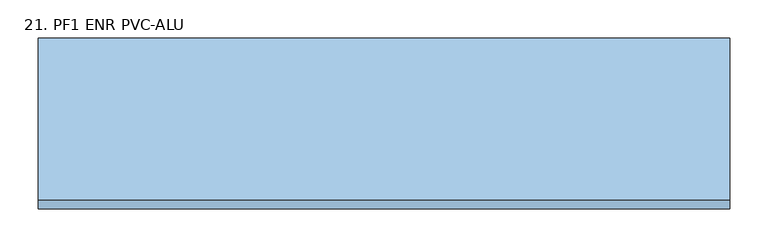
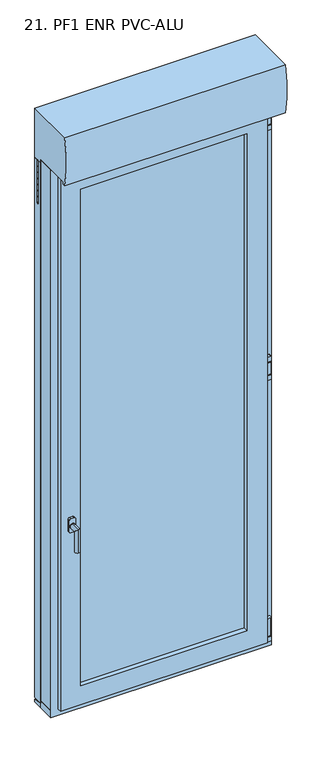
"""IFC4 building model written with IfcOpenShell, lengths in millimetres: window geometry, 21. PF1 ENR PVC-ALU : 130X236 (LXH) cm."""

from ifc_helpers import new_model, si_unit, point, frame, frame_2d, origin, place, context, project, spatial, polyline, circle_curve, ellipse_curve, trimmed, segment, composite_curve, outline, extrude, faceted_brep, source, transform, mapped, element, save
from ifc_brep_helpers import plane_surface, cylinder_surface, advanced_brep


def window_21_pf1_enr_pvc_alu_96f1f04a(model_context):
    return source(origin(), model_context, "Body", "SolidModel", [
        extrude(outline(composite_curve([segment(polyline([(1233.7215382, 426.56), (1233.7215382, 441.56), (1251.7279213, 441.56)]), True, "CONTINUOUS"), segment(trimmed(circle_curve(frame_2d((1251.7279213, 439.5663831)), 1.9936169), [point((1251.7279213, 441.56))], [point((1253.7215382, 439.5663831))], False, "CARTESIAN"), True, "CONTINUOUS"), segment(polyline([(1253.7215382, 439.5663831), (1253.7215382, 428.5276754)]), True, "CONTINUOUS"), segment(trimmed(circle_curve(frame_2d((1251.7538628, 428.5276754)), 1.9676754), [point((1253.7215382, 428.5276754))], [point((1251.7538628, 426.56))], False, "CARTESIAN"), True, "CONTINUOUS"), segment(polyline([(1251.7538628, 426.56), (1233.7215382, 426.56)]), True, "CONTINUOUS")], self_intersect=False)), frame((0.0, -115.0338923, 0.0), z_axis=(0.0, 1.0, 0.0), x_axis=(0.0, 0.0, 1.0)), (0.0, 0.0, 1.0), 15.0),
        extrude(outline(composite_curve([segment(trimmed(circle_curve(frame_2d((434.2805562, -107.5434807)), 5.0), [point((429.2805562, -107.5434807))], [point((439.2805562, -107.5434807))], False, "CARTESIAN"), True, "CONTINUOUS"), segment(trimmed(circle_curve(frame_2d((434.2805562, -107.5434807)), 5.0), [point((439.2805562, -107.5434807))], [point((429.2805562, -107.5434807))], False, "CARTESIAN"), True, "CONTINUOUS")], self_intersect=False)), frame((0.0, 0.0, 1173.7215382), z_axis=(0.0, 0.0, 1.0), x_axis=(1.0, 0.0, 0.0)), (0.0, 0.0, 1.0), 60.0),
        extrude(outline(composite_curve([segment(polyline([(421.56, -100.0434807), (439.6018237, -100.0434807)]), True, "CONTINUOUS"), segment(trimmed(circle_curve(frame_2d((439.6018237, -102.001657)), 1.9581763), [point((439.6018237, -100.0434807))], [point((441.56, -102.001657))], False, "CARTESIAN"), True, "CONTINUOUS"), segment(polyline([(441.56, -102.001657), (441.56, -113.0253033)]), True, "CONTINUOUS"), segment(trimmed(circle_curve(frame_2d((439.5418225, -113.0253033)), 2.0181775), [point((441.56, -113.0253033))], [point((439.5418225, -115.0434807))], False, "CARTESIAN"), True, "CONTINUOUS"), segment(polyline([(439.5418225, -115.0434807), (421.56, -115.0434807), (421.56, -100.0434807)]), True, "CONTINUOUS")], self_intersect=False)), frame((0.0, 0.0, 1179.448), z_axis=(0.0, 0.0, 1.0), x_axis=(1.0, 0.0, 0.0)), (0.0, 0.0, 1.0), 50.0),
        extrude(outline(composite_curve([segment(polyline([(1174.448, 441.7805562), (1174.448, 426.7805562), (1156.4572498, 426.7805562)]), True, "CONTINUOUS"), segment(trimmed(circle_curve(frame_2d((1156.4572498, 428.7898059)), 2.0092498), [point((1156.4572498, 426.7805562))], [point((1154.448, 428.7898059))], False, "CARTESIAN"), True, "CONTINUOUS"), segment(polyline([(1154.448, 428.7898059), (1154.448, 440.1303507)]), True, "CONTINUOUS"), segment(trimmed(circle_curve(frame_2d((1156.4216694, 439.8068867)), 2.0), [point((1154.448, 440.1303507))], [point((1156.0982054, 441.7805562))], False, "CARTESIAN"), True, "CONTINUOUS"), segment(polyline([(1156.0982054, 441.7805562), (1174.448, 441.7805562)]), True, "CONTINUOUS")], self_intersect=False)), frame((0.0, -115.0338923, 0.0), z_axis=(0.0, 1.0, 0.0), x_axis=(0.0, 0.0, 1.0)), (0.0, 0.0, 1.0), 15.0),
        extrude(outline(composite_curve([segment(polyline([(2310.8255382, 426.552), (2310.8255382, 441.552), (2328.8319213, 441.552)]), True, "CONTINUOUS"), segment(trimmed(circle_curve(frame_2d((2328.8319213, 439.5583831)), 1.9936169), [point((2328.8319213, 441.552))], [point((2330.8255382, 439.5583831))], False, "CARTESIAN"), True, "CONTINUOUS"), segment(polyline([(2330.8255382, 439.5583831), (2330.8255382, 428.5196754)]), True, "CONTINUOUS"), segment(trimmed(circle_curve(frame_2d((2328.8578628, 428.5196754)), 1.9676754), [point((2330.8255382, 428.5196754))], [point((2328.8578628, 426.552))], False, "CARTESIAN"), True, "CONTINUOUS"), segment(polyline([(2328.8578628, 426.552), (2310.8255382, 426.552)]), True, "CONTINUOUS")], self_intersect=False)), frame((0.0, -115.0338923, 0.0), z_axis=(0.0, 1.0, 0.0), x_axis=(0.0, 0.0, 1.0)), (0.0, 0.0, 1.0), 15.0),
        extrude(outline(composite_curve([segment(trimmed(circle_curve(frame_2d((434.2725562, -107.5434807)), 5.0), [point((429.2725562, -107.5434807))], [point((439.2725562, -107.5434807))], False, "CARTESIAN"), True, "CONTINUOUS"), segment(trimmed(circle_curve(frame_2d((434.2725562, -107.5434807)), 5.0), [point((439.2725562, -107.5434807))], [point((429.2725562, -107.5434807))], False, "CARTESIAN"), True, "CONTINUOUS")], self_intersect=False)), frame((0.0, 0.0, 2250.8255382), z_axis=(0.0, 0.0, 1.0), x_axis=(1.0, 0.0, 0.0)), (0.0, 0.0, 1.0), 60.0),
        extrude(outline(composite_curve([segment(polyline([(421.552, -100.0434807), (439.5938237, -100.0434807)]), True, "CONTINUOUS"), segment(trimmed(circle_curve(frame_2d((439.5938237, -102.001657)), 1.9581763), [point((439.5938237, -100.0434807))], [point((441.552, -102.001657))], False, "CARTESIAN"), True, "CONTINUOUS"), segment(polyline([(441.552, -102.001657), (441.552, -113.0253033)]), True, "CONTINUOUS"), segment(trimmed(circle_curve(frame_2d((439.5338225, -113.0253033)), 2.0181775), [point((441.552, -113.0253033))], [point((439.5338225, -115.0434807))], False, "CARTESIAN"), True, "CONTINUOUS"), segment(polyline([(439.5338225, -115.0434807), (421.552, -115.0434807), (421.552, -100.0434807)]), True, "CONTINUOUS")], self_intersect=False)), frame((0.0, 0.0, 2256.552), z_axis=(0.0, 0.0, 1.0), x_axis=(1.0, 0.0, 0.0)), (0.0, 0.0, 1.0), 50.0),
        extrude(outline(composite_curve([segment(polyline([(2251.552, 441.7725562), (2251.552, 426.7725562), (2233.5612498, 426.7725562)]), True, "CONTINUOUS"), segment(trimmed(circle_curve(frame_2d((2233.5612498, 428.7818059)), 2.0092498), [point((2233.5612498, 426.7725562))], [point((2231.552, 428.7818059))], False, "CARTESIAN"), True, "CONTINUOUS"), segment(polyline([(2231.552, 428.7818059), (2231.552, 440.1223507)]), True, "CONTINUOUS"), segment(trimmed(circle_curve(frame_2d((2233.5256694, 439.7988867)), 2.0), [point((2231.552, 440.1223507))], [point((2233.2022054, 441.7725562))], False, "CARTESIAN"), True, "CONTINUOUS"), segment(polyline([(2233.2022054, 441.7725562), (2251.552, 441.7725562)]), True, "CONTINUOUS")], self_intersect=False)), frame((0.0, -115.0338923, 0.0), z_axis=(0.0, 1.0, 0.0), x_axis=(0.0, 0.0, 1.0)), (0.0, 0.0, 1.0), 15.0),
        extrude(outline(composite_curve([segment(trimmed(circle_curve(frame_2d((434.2725562, -107.5434807)), 5.0), [point((429.2725562, -107.5434807))], [point((439.2725562, -107.5434807))], False, "CARTESIAN"), True, "CONTINUOUS"), segment(trimmed(circle_curve(frame_2d((434.2725562, -107.5434807)), 5.0), [point((439.2725562, -107.5434807))], [point((429.2725562, -107.5434807))], False, "CARTESIAN"), True, "CONTINUOUS")], self_intersect=False)), frame((0.0, 0.0, 48.2452297), z_axis=(0.0, 0.0, 1.0), x_axis=(1.0, 0.0, 0.0)), (0.0, 0.0, 1.0), 5.0),
        extrude(outline(composite_curve([segment(polyline([(48.2452297, 441.7725562), (48.2452297, 426.7725562), (30.2544795, 426.7725562)]), True, "CONTINUOUS"), segment(trimmed(circle_curve(frame_2d((30.2544795, 428.7818059)), 2.0092498), [point((30.2544795, 426.7725562))], [point((28.2452297, 428.7818059))], False, "CARTESIAN"), True, "CONTINUOUS"), segment(polyline([(28.2452297, 428.7818059), (28.2452297, 440.1223507)]), True, "CONTINUOUS"), segment(trimmed(circle_curve(frame_2d((30.2188991, 439.7988867)), 2.0), [point((28.2452297, 440.1223507))], [point((29.8954351, 441.7725562))], False, "CARTESIAN"), True, "CONTINUOUS"), segment(polyline([(29.8954351, 441.7725562), (48.2452297, 441.7725562)]), True, "CONTINUOUS")], self_intersect=False)), frame((0.0, -115.0338923, 0.0), z_axis=(0.0, 1.0, 0.0), x_axis=(0.0, 0.0, 1.0)), (0.0, 0.0, 1.0), 15.0),
        extrude(outline(composite_curve([segment(polyline([(421.552, -100.0434807), (439.5938237, -100.0434807)]), True, "CONTINUOUS"), segment(trimmed(circle_curve(frame_2d((439.5938237, -102.001657)), 1.9581763), [point((439.5938237, -100.0434807))], [point((441.552, -102.001657))], False, "CARTESIAN"), True, "CONTINUOUS"), segment(polyline([(441.552, -102.001657), (441.552, -113.0253033)]), True, "CONTINUOUS"), segment(trimmed(circle_curve(frame_2d((439.5338225, -113.0253033)), 2.0181775), [point((441.552, -113.0253033))], [point((439.5338225, -115.0434807))], False, "CARTESIAN"), True, "CONTINUOUS"), segment(polyline([(439.5338225, -115.0434807), (421.552, -115.0434807), (421.552, -100.0434807)]), True, "CONTINUOUS")], self_intersect=False)), frame((0.0, 0.0, 53.2452297), z_axis=(0.0, 0.0, 1.0), x_axis=(1.0, 0.0, 0.0)), (0.0, 0.0, 1.0), 75.0),
        advanced_brep(
        [(-371.504, -129.3239543, 851.448), (-386.504, -129.3239543, 851.448), (-391.504, -129.3239543, 846.448), (-391.504, -129.3239543, 796.448), (-386.504, -129.3239543, 791.448), (-371.504, -129.3239543, 791.448), (-366.504, -129.3239543, 796.448), (-366.504, -129.3239543, 846.448), (-378.7268127, -129.3239543, 829.2518349), (-378.7268127, -129.3239543, 809.2518349), (-371.504, -117.4674689, 851.448), (-366.504, -117.4674689, 846.448), (-366.504, -117.4674689, 796.448), (-371.504, -117.4674689, 791.448), (-386.504, -117.4674689, 791.448), (-391.504, -117.4674689, 796.448), (-391.504, -117.4674689, 846.448), (-386.504, -117.4674689, 851.448), (-378.7268127, -133.0531938, 809.2518349), (-378.7268127, -133.0531938, 829.2518349), (-378.7268127, -173.0531938, 829.2518349), (-378.7268127, -153.0531938, 809.2518349), (-378.7268127, -173.0531938, 729.2518349), (-378.7268127, -153.0531938, 729.2518349)],
        [
            (0, 1),
            (1, 2, circle_curve(frame((-386.504, -129.3239543, 846.448), z_axis=(0.0, -1.0, 0.0), x_axis=(-1.0, 0.0, 0.0)), 5.0)),
            (2, 3),
            (3, 4, circle_curve(frame((-386.504, -129.3239543, 796.448), z_axis=(0.0, -1.0, 0.0), x_axis=(-1.0, 0.0, 0.0)), 5.0)),
            (4, 5),
            (5, 6, circle_curve(frame((-371.504, -129.3239543, 796.448), z_axis=(0.0, -1.0, 0.0), x_axis=(-1.0, 0.0, 0.0)), 5.0)),
            (6, 7),
            (7, 0, circle_curve(frame((-371.504, -129.3239543, 846.448), z_axis=(0.0, -1.0, 0.0), x_axis=(-1.0, 0.0, 0.0)), 5.0)),
            (8, 9, circle_curve(frame((-378.7268127, -129.3239543, 819.2518349), z_axis=(0.0, 1.0, 0.0), x_axis=(0.0, 0.0, -1.0)), 10.0)),
            (9, 8, circle_curve(frame((-378.7268127, -129.3239543, 819.2518349), z_axis=(0.0, 1.0, 0.0), x_axis=(0.0, 0.0, -1.0)), 10.0)),
            (10, 11, circle_curve(frame((-371.504, -117.4674689, 846.448), z_axis=(0.0, 1.0, 0.0), x_axis=(-1.0, 0.0, 0.0)), 5.0)),
            (11, 12),
            (12, 13, circle_curve(frame((-371.504, -117.4674689, 796.448), z_axis=(0.0, 1.0, 0.0), x_axis=(-1.0, 0.0, 0.0)), 5.0)),
            (13, 14),
            (14, 15, circle_curve(frame((-386.504, -117.4674689, 796.448), z_axis=(0.0, 1.0, 0.0), x_axis=(-1.0, 0.0, 0.0)), 5.0)),
            (15, 16),
            (16, 17, circle_curve(frame((-386.504, -117.4674689, 846.448), z_axis=(0.0, 1.0, 0.0), x_axis=(-1.0, 0.0, 0.0)), 5.0)),
            (17, 10),
            (7, 11),
            (10, 0),
            (6, 12),
            (5, 13),
            (4, 14),
            (3, 15),
            (2, 16),
            (1, 17),
            (18, 19, circle_curve(frame((-378.7268127, -133.0531938, 819.2518349), z_axis=(0.0, -1.0, 0.0), x_axis=(0.0, 0.0, -1.0)), 10.0)),
            (19, 20),
            (20, 21, ellipse_curve(frame((-378.7268127, -163.0531938, 819.2518349), z_axis=(0.0, 0.7071067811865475, 0.7071067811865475), x_axis=(0.0, 0.7071067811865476, -0.7071067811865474)), 14.1421356, 10.0)),
            (21, 18),
            (19, 18, circle_curve(frame((-378.7268127, -133.0531938, 819.2518349), z_axis=(0.0, -1.0, 0.0), x_axis=(0.0, 0.0, -1.0)), 10.0)),
            (21, 20, ellipse_curve(frame((-378.7268127, -163.0531938, 819.2518349), z_axis=(0.0, 0.7071067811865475, 0.7071067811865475), x_axis=(0.0, 0.7071067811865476, -0.7071067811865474)), 14.1421356, 10.0)),
            (22, 23, circle_curve(frame((-378.7268127, -163.0531938, 729.2518349), z_axis=(0.0, 0.0, -1.0), x_axis=(0.0, 1.0, 0.0)), 10.0)),
            (23, 22, circle_curve(frame((-378.7268127, -163.0531938, 729.2518349), z_axis=(0.0, 0.0, -1.0), x_axis=(0.0, 1.0, 0.0)), 10.0)),
            (20, 22),
            (23, 21),
            (18, 9),
            (8, 19),
        ],
        [
            plane_surface(frame((-376.504, -129.3239543, 846.448), z_axis=(0.0, -1.0, 0.0), x_axis=(0.0, 0.0, -1.0))),
            plane_surface(frame((-376.504, -117.4674689, 846.448), z_axis=(0.0, 1.0, 0.0), x_axis=(0.0, 0.0, 1.0))),
            cylinder_surface(frame((-371.504, -129.3239543, 846.448), z_axis=(0.0, 1.0, 0.0), x_axis=(-1.0, 0.0, 0.0)), 5.0),
            plane_surface(frame((-366.504, -117.4674689, 846.448), z_axis=(1.0, 0.0, 0.0), x_axis=(0.0, -1.0, 0.0))),
            cylinder_surface(frame((-371.504, -129.3239543, 796.448), z_axis=(0.0, 1.0, 0.0), x_axis=(-1.0, 0.0, 0.0)), 5.0),
            plane_surface(frame((-371.504, -117.4674689, 791.448), z_axis=(0.0, 0.0, -1.0), x_axis=(0.0, -1.0, 0.0))),
            cylinder_surface(frame((-386.504, -129.3239543, 796.448), z_axis=(0.0, 1.0, 0.0), x_axis=(-1.0, 0.0, 0.0)), 5.0),
            plane_surface(frame((-391.504, -117.4674689, 796.448), z_axis=(-1.0, 0.0, 0.0), x_axis=(0.0, -1.0, 0.0))),
            cylinder_surface(frame((-386.504, -129.3239543, 846.448), z_axis=(0.0, 1.0, 0.0), x_axis=(-1.0, 0.0, 0.0)), 5.0),
            plane_surface(frame((-386.504, -117.4674689, 851.448), z_axis=(0.0, 0.0, 1.0), x_axis=(0.0, -1.0, 0.0))),
            cylinder_surface(frame((-378.7268127, -133.0531938, 819.2518349), z_axis=(0.0, 1.0, 0.0), x_axis=(0.0, 0.0, -1.0)), 10.0),
            plane_surface(frame((-366.504, -163.0531938, 729.2518349), z_axis=(0.0, 0.0, -1.0), x_axis=(1.0, 0.0, 0.0))),
            cylinder_surface(frame((-378.7268127, -163.0531938, 819.2518349), z_axis=(0.0, 0.0, 1.0), x_axis=(0.0, 1.0, 0.0)), 10.0),
            cylinder_surface(frame((-378.7268127, -129.3239543, 819.2518349), z_axis=(0.0, 1.0, 0.0), x_axis=(0.0, 0.0, -1.0)), 10.0),
        ],
        [
            (0, [[1, 2, 3, 4, 5, 6, 7, 8], [9, 10]]),
            (1, [[11, 12, 13, 14, 15, 16, 17, 18]]),
            (2, [[-8, 19, -11, 20]]),
            (3, [[-7, 21, -12, -19]]),
            (4, [[-6, 22, -13, -21]]),
            (5, [[-5, 23, -14, -22]]),
            (6, [[-4, 24, -15, -23]]),
            (7, [[-3, 25, -16, -24]]),
            (8, [[-2, 26, -17, -25]]),
            (9, [[-1, -20, -18, -26]]),
            (10, [[27, 28, 29, 30]]),
            (10, [[-28, 31, -30, 32]]),
            (11, [[33, 34]]),
            (12, [[-29, 35, -34, 36]]),
            (12, [[-32, -36, -33, -35]]),
            (13, [[-27, 37, -9, 38]]),
            (13, [[-31, -38, -10, -37]]),
        ],
    ),
        faceted_brep([(449.992, -28.9, 2360.0), (449.992, -100.02, 2360.0), (449.992, -100.02, 0.0), (449.992, -28.9, 0.0), (-450.008, -100.02, 2360.0), (-450.008, -100.02, 0.0), (413.416, -100.02, 36.576), (-413.432, -100.02, 36.576), (-413.432, -100.02, 2323.424), (413.416, -100.02, 2323.424), (-450.008, -28.9, 0.0), (-450.008, -28.9, 2360.0), (392.0903858, -28.9, 2302.0983858), (-392.1063858, -28.9, 2302.0983858), (-392.1063858, -28.9, 57.9016142), (392.0903858, -28.9, 57.9016142), (413.416, -44.648, 2323.424), (413.416, -44.648, 36.576), (-413.432, -44.648, 2323.424), (-413.432, -44.648, 36.576), (392.0903858, -44.648, 57.9016142), (-392.1063858, -44.648, 57.9016142), (-392.1063858, -44.648, 2302.0983858), (392.0903858, -44.648, 2302.0983858)], [[[0, 1, 2, 3]], [[1, 4, 5, 2], [6, 7, 8, 9]], [[3, 2, 5, 10]], [[3, 10, 11, 0], [12, 13, 14, 15]], [[9, 16, 17, 6]], [[16, 18, 19, 17], [20, 21, 22, 23]], [[6, 17, 19, 7]], [[23, 12, 15, 20]], [[20, 15, 14, 21]], [[10, 5, 4, 11]], [[7, 19, 18, 8]], [[21, 14, 13, 22]], [[11, 4, 1, 0]], [[8, 18, 16, 9]], [[22, 13, 12, 23]]]),
        faceted_brep([(-450.0, -100.02, 2360.0), (-450.0, -28.9, 2360.0), (-450.0, -28.9, 0.0), (-450.0, -100.02, 0.0), (450.0, -28.9, 2360.0), (450.0, -28.9, 0.0), (-392.0983858, -28.9, 57.9016142), (392.0983858, -28.9, 57.9016142), (392.0983858, -28.9, 2302.0983858), (-392.0983858, -28.9, 2302.0983858), (450.0, -100.02, 0.0), (450.0, -100.02, 2360.0), (-413.424, -100.02, 2323.424), (413.424, -100.02, 2323.424), (413.424, -100.02, 36.576), (-413.424, -100.02, 36.576), (-413.424, -44.648, 2323.424), (-413.424, -44.648, 36.576), (413.424, -44.648, 36.576), (413.424, -44.648, 2323.424), (-392.0983858, -44.648, 2302.0983858), (392.0983858, -44.648, 2302.0983858), (392.0983858, -44.648, 57.9016142), (-392.0983858, -44.648, 57.9016142)], [[[0, 1, 2, 3]], [[1, 4, 5, 2], [6, 7, 8, 9]], [[3, 2, 5, 10]], [[3, 10, 11, 0], [12, 13, 14, 15]], [[16, 12, 15, 17]], [[17, 15, 14, 18]], [[17, 18, 19, 16], [20, 21, 22, 23]], [[9, 20, 23, 6]], [[6, 23, 22, 7]], [[10, 5, 4, 11]], [[18, 14, 13, 19]], [[7, 22, 21, 8]], [[11, 4, 1, 0]], [[19, 13, 12, 16]], [[8, 21, 20, 9]]]),
        faceted_brep([(-421.56, -119.3239543, 28.448), (-421.56, -100.0434807, 28.448), (421.552, -100.0434807, 28.448), (421.552, -119.3239543, 28.448), (421.552, -100.0434807, 2331.552), (421.552, -119.3239543, 2331.552), (-421.56, -100.0434807, 2331.552), (401.232, -100.0434807, 2311.232), (-401.24, -100.0434807, 2311.232), (-401.24, -100.0434807, 48.768), (401.232, -100.0434807, 48.768), (-421.56, -119.3239543, 2331.552), (339.3505043, -119.3239543, 110.6494957), (-339.3585043, -119.3239543, 110.6494957), (-339.3585043, -119.3239543, 2249.3505043), (339.3505043, -119.3239543, 2249.3505043), (-339.3585043, -100.019954, 110.6494957), (339.3505043, -100.019954, 110.6494957), (339.3505043, -100.019954, 2249.3505043), (361.6086701, -100.019954, 88.3913299), (-361.6166701, -100.019954, 88.3913299), (-361.6166701, -100.019954, 2271.6086701), (361.6086701, -100.019954, 2271.6086701), (-339.3585043, -100.019954, 2249.3505043), (-361.6166701, -48.2039543, 88.3913299), (361.6086701, -48.2039543, 88.3913299), (361.6086701, -48.2039543, 2271.6086701), (392.0983858, -48.2039543, 57.9016142), (-392.1063858, -48.2039543, 57.9016142), (-392.1063858, -48.2039543, 2302.0983858), (392.0983858, -48.2039543, 2302.0983858), (-361.6166701, -48.2039543, 2271.6086701), (-392.1063858, -44.648, 57.9016142), (392.0983858, -44.648, 57.9016142), (392.0983858, -44.648, 2302.0983858), (401.232, -44.648, 48.768), (-401.24, -44.648, 48.768), (-401.24, -44.648, 2311.232), (401.232, -44.648, 2311.232), (-392.1063858, -44.648, 2302.0983858)], [[[0, 1, 2, 3]], [[3, 2, 4, 5]], [[2, 1, 6, 4], [7, 8, 9, 10]], [[5, 11, 0, 3], [12, 13, 14, 15]], [[16, 13, 12, 17]], [[17, 12, 15, 18]], [[19, 20, 21, 22], [18, 23, 16, 17]], [[24, 20, 19, 25]], [[25, 19, 22, 26]], [[27, 28, 29, 30], [26, 31, 24, 25]], [[32, 28, 27, 33]], [[33, 27, 30, 34]], [[35, 36, 37, 38], [34, 39, 32, 33]], [[9, 36, 35, 10]], [[10, 35, 38, 7]], [[11, 6, 1, 0]], [[23, 14, 13, 16]], [[31, 21, 20, 24]], [[39, 29, 28, 32]], [[8, 37, 36, 9]], [[5, 4, 6, 11]], [[34, 30, 29, 39]], [[7, 38, 37, 8]], [[18, 15, 14, 23]], [[26, 22, 21, 31]]]),
        extrude(outline(polyline([(353.392, -47.9552512), (353.392, -51.9821328), (-353.408, -51.9821328), (-353.408, -47.9552512), (353.392, -47.9552512)])), frame((0.0, 0.0, 96.5824883), z_axis=(0.0, 0.0, 1.0), x_axis=(1.0, 0.0, 0.0)), (0.0, 0.0, 1.0), 2166.8350233),
        extrude(outline(polyline([(353.392, -96.019954), (353.392, -100.019954), (-353.408, -100.019954), (-353.408, -96.019954), (353.392, -96.019954)])), frame((0.0, 0.0, 96.5824883), z_axis=(0.0, 0.0, 1.0), x_axis=(1.0, 0.0, 0.0)), (0.0, 0.0, 1.0), 2166.8350233),
        extrude(outline(polyline([(353.392, -71.9786213), (353.392, -75.9786213), (-353.408, -75.9786213), (-353.408, -71.9786213), (353.392, -71.9786213)])), frame((0.0, 0.0, 96.5824883), z_axis=(0.0, 0.0, 1.0), x_axis=(1.0, 0.0, 0.0)), (0.0, 0.0, 1.0), 2166.8350233),
        faceted_brep([(361.6086701, -48.2039543, 2271.6086701), (361.6086701, -100.019954, 2271.6086701), (361.6086701, -100.019954, 88.3913299), (361.6086701, -48.2039543, 88.3913299), (-361.6166701, -100.019954, 2271.6086701), (-361.6166701, -100.019954, 88.3913299), (353.4175117, -100.019954, 96.5824883), (-353.4255117, -100.019954, 96.5824883), (-353.4255117, -100.019954, 2263.4175117), (353.4175117, -100.019954, 2263.4175117), (-361.6166701, -48.2039543, 88.3913299), (-386.5594701, -48.2039543, 2296.5514701), (-386.5594701, -48.2039543, 63.4485299), (386.5514701, -48.2039543, 63.4485299), (386.5514701, -48.2039543, 2296.5514701), (-361.6166701, -48.2039543, 2271.6086701), (386.5514701, -28.7475756, 2296.5514701), (386.5514701, -28.7475756, 63.4485299), (-386.5594701, -28.7475756, 63.4485299), (-386.5594701, -28.7475756, 2296.5514701), (-335.3473386, -28.7475756, 2245.3393386), (-335.3473386, -28.7475756, 114.6606614), (335.3393386, -28.7475756, 114.6606614), (335.3393386, -28.7475756, 2245.3393386), (353.4175117, -96.019954, 2263.4175117), (353.4175117, -96.019954, 96.5824883), (-353.4255117, -96.019954, 2263.4175117), (-353.4255117, -96.019954, 96.5824883), (339.5240492, -96.019954, 110.4759508), (-339.5320492, -96.019954, 110.4759508), (-339.5320492, -96.019954, 2249.5240492), (339.5240492, -96.019954, 2249.5240492), (353.4175117, -75.9786213, 2263.4175117), (353.4175117, -71.9786213, 2263.4175117), (353.4175117, -71.9786213, 96.5824883), (353.4175117, -75.9786213, 96.5824883), (-353.4255117, -71.9786213, 2263.4175117), (-353.4255117, -71.9786213, 96.5824883), (336.1974041, -71.9786213, 113.8025959), (-336.2054041, -71.9786213, 113.8025959), (-336.2054041, -71.9786213, 2246.1974041), (336.1974041, -71.9786213, 2246.1974041), (-353.4255117, -75.9786213, 96.5824883), (-353.4255117, -75.9786213, 2263.4175117), (-339.5320492, -75.9786213, 2249.5240492), (-339.5320492, -75.9786213, 110.4759508), (339.5240492, -75.9786213, 110.4759508), (339.5240492, -75.9786213, 2249.5240492), (335.3393386, -47.9821328, 2245.3393386), (335.3393386, -47.9821328, 114.6606614), (-335.3473386, -47.9821328, 114.6606614), (-353.4255117, -47.9821328, 2263.4175117), (-353.4255117, -47.9821328, 96.5824883), (353.4175117, -47.9821328, 96.5824883), (353.4175117, -47.9821328, 2263.4175117), (-335.3473386, -47.9821328, 2245.3393386), (353.4175117, -51.9821328, 2263.4175117), (353.4175117, -51.9821328, 96.5824883), (-353.4255117, -51.9821328, 96.5824883), (-353.4255117, -51.9821328, 2263.4175117), (-336.2054041, -51.9821328, 2246.1974041), (-336.2054041, -51.9821328, 113.8025959), (336.1974041, -51.9821328, 113.8025959), (336.1974041, -51.9821328, 2246.1974041)], [[[0, 1, 2, 3]], [[4, 5, 2, 1], [6, 7, 8, 9]], [[3, 2, 5, 10]], [[11, 12, 13, 14], [3, 10, 15, 0]], [[16, 14, 13, 17]], [[17, 13, 12, 18]], [[17, 18, 19, 16], [20, 21, 22, 23]], [[9, 24, 25, 6]], [[26, 27, 25, 24], [28, 29, 30, 31]], [[6, 25, 27, 7]], [[32, 33, 34, 35]], [[36, 37, 34, 33], [38, 39, 40, 41]], [[35, 34, 37, 42]], [[35, 42, 43, 32], [44, 45, 46, 47]], [[31, 47, 46, 28]], [[28, 46, 45, 29]], [[48, 23, 22, 49]], [[49, 22, 21, 50]], [[51, 52, 53, 54], [49, 50, 55, 48]], [[56, 54, 53, 57]], [[57, 53, 52, 58]], [[57, 58, 59, 56], [60, 61, 62, 63]], [[41, 63, 62, 38]], [[38, 62, 61, 39]], [[29, 45, 44, 30]], [[7, 27, 26, 8]], [[10, 5, 4, 15]], [[18, 12, 11, 19]], [[50, 21, 20, 55]], [[58, 52, 51, 59]], [[39, 61, 60, 40]], [[42, 37, 36, 43]], [[30, 44, 47, 31]], [[8, 26, 24, 9]], [[15, 4, 1, 0]], [[19, 11, 14, 16]], [[55, 20, 23, 48]], [[59, 51, 54, 56]], [[40, 60, 63, 41]], [[32, 43, 36, 33]]]),
        extrude(outline(composite_curve([segment(polyline([(-186.3991192, 2350.3409737), (-197.3316724, 2350.3409737)]), True, "CONTINUOUS"), segment(trimmed(circle_curve(frame_2d((189.1050523, 2453.6204869)), 400.0), [point((-197.3316724, 2350.3409737))], [point((-197.3316724, 2556.9))], False, "CARTESIAN"), True, "CONTINUOUS"), segment(polyline([(-197.3316724, 2556.9), (13.0999994, 2556.9), (13.0999994, 2346.0216226), (-4.9499979, 2346.0216226), (-4.9499979, 2344.2216225), (-2.7215215, 2344.2216225), (-2.7215215, 2319.9791617), (-4.9499979, 2319.9791617), (-4.9499979, 2318.1791616), (-2.7215215, 2318.1791616), (-2.7215215, 2293.9367008), (-4.9499979, 2293.9367008), (-4.9499979, 2292.1367006), (-2.7215215, 2292.1367006), (-2.7215215, 2267.8942398), (-4.9499979, 2267.8942398), (-4.9499979, 2266.0942397), (-2.7215215, 2266.0942397), (-2.7215215, 2241.8517789), (-4.9499979, 2241.8517789), (-4.9499979, 2240.0517788), (-2.7215215, 2240.0517788), (-2.7215215, 2215.809318), (-4.9499979, 2215.809318), (-4.9499979, 2214.0093179), (-2.7215215, 2214.0093179), (-2.7215215, 2189.7668571), (-4.9499979, 2189.7668571), (-4.9499979, 2187.966857), (-2.7215215, 2187.966857), (-2.7215215, 2163.7243961), (-4.9499979, 2163.7243961), (-4.9499979, 2161.9243963), (-3.044091, 2161.9243963), (-3.044091, 2158.977424), (-6.4, 2155.6232688), (-9.8999992, 2158.9774251), (-9.8999992, 2161.9243963), (-7.7499979, 2161.9243963), (-7.7499979, 2163.7243961), (-9.9999979, 2163.7243961), (-9.9999979, 2187.9668572), (-7.7499979, 2187.9668572), (-7.7499979, 2189.7668571), (-9.9999979, 2189.7668571), (-9.9999979, 2214.0093181), (-7.7499979, 2214.0093181), (-7.7499979, 2215.809318), (-9.9999979, 2215.809318), (-9.9999979, 2240.051779), (-7.7499979, 2240.051779), (-7.7499979, 2241.8517789), (-9.9999979, 2241.8517789), (-9.9999979, 2266.09424), (-7.7499979, 2266.09424), (-7.7499979, 2267.8942398), (-9.9999979, 2267.8942398), (-9.9999979, 2292.1367009), (-7.7499979, 2292.1367009), (-7.7499979, 2293.9367008), (-9.9999979, 2293.9367008), (-9.9999979, 2318.1791618), (-7.7499979, 2318.1791618), (-7.7499979, 2319.9791617), (-9.9999979, 2319.9791617), (-9.9999979, 2344.2216227), (-7.7499979, 2344.2216227), (-7.7499979, 2346.0216226), (-28.9, 2346.0216226), (-28.9, 2360.0), (-186.3991192, 2360.0), (-186.3991192, 2350.3409737)]), True, "CONTINUOUS")], self_intersect=False)), frame((-450.008, 0.0, 0.0), z_axis=(1.0, 0.0, 0.0), x_axis=(0.0, 1.0, 0.0)), (0.0, 0.0, 1.0), 900.0),
        extrude(outline(polyline([(-100.02, 30.0), (-28.9, 30.0), (-28.9, 20.0), (13.1, 10.0), (13.1, 0.0), (-100.02, 0.0), (-100.02, 30.0)])), frame((-450.008, 0.0, 0.0), z_axis=(1.0, 0.0, 0.0), x_axis=(0.0, 1.0, 0.0)), (0.0, 0.0, 1.0), 900.008),
        extrude(outline(polyline([(449.008, 13.1), (450.0, 13.1), (450.0, -28.9), (449.008, -28.9), (449.008, -14.9), (429.008, -14.9), (429.008, -11.9), (449.008, -11.9), (449.008, -0.9), (429.008, -0.9), (429.008, 2.1), (449.008, 2.1), (449.008, 13.1)])), frame((0.0, 0.0, 20.0), z_axis=(0.0, 0.0, 1.0), x_axis=(1.0, 0.0, 0.0)), (0.0, 0.0, 1.0), 2326.0216226),
        extrude(outline(polyline([(-449.016, 13.1), (-449.016, 2.1), (-429.016, 2.1), (-429.016, -0.9), (-449.016, -0.9), (-449.016, -11.9), (-429.016, -11.9), (-429.016, -14.9), (-449.016, -14.9), (-449.016, -28.9), (-450.008, -28.9), (-450.008, 13.1), (-449.016, 13.1)])), frame((0.0, 0.0, 20.0), z_axis=(0.0, 0.0, 1.0), x_axis=(1.0, 0.0, 0.0)), (0.0, 0.0, 1.0), 2326.0216226),
    ])


if __name__ == "__main__":
    model = new_model("IFC4")
    model_context = context("Model", 3, world=origin())
    ifc_project = project(units=[si_unit("LENGTHUNIT", "METRE", prefix="MILLI")], contexts=[model_context])
    site = spatial("IfcSite", under=ifc_project)
    building = spatial("IfcBuilding", under=site)
    placement = place(None, origin())
    window_21_pf1_enr_pvc_alu_shape = window_21_pf1_enr_pvc_alu_96f1f04a(model_context)
    element("IfcWindow", 1, ObjectType="21. PF1 ENR PVC-ALU : 130X236 (LXH) cm", at=placement, inside=building, context=model_context, shape_type="MappedRepresentation", body=[
        mapped(window_21_pf1_enr_pvc_alu_shape, transform((0.0, 0.0, 0.0), x_axis=(1.0, 0.0, 0.0), y_axis=(0.0, 1.0, 0.0), z_axis=(0.0, 0.0, 1.0))),
    ])
    save(model, "model.ifc")
